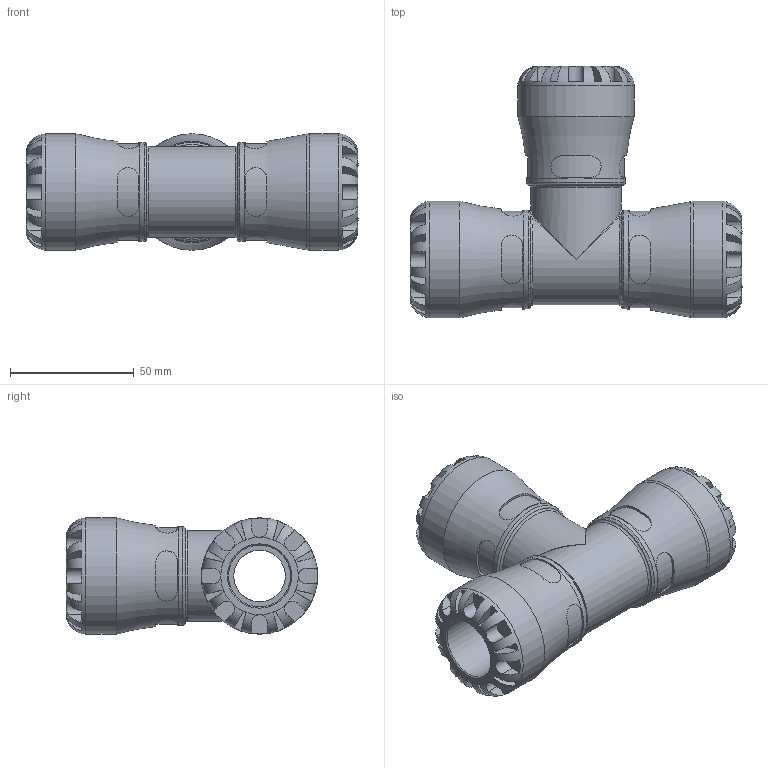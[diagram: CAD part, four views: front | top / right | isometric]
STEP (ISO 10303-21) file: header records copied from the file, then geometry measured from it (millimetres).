
FILE_DESCRIPTION(/* description */ ('PLASSON TEE 25X25X25 SERIES 1'),/* implementation_level */ '2;1');
FILE_NAME(/* name */ 'C:\Dropbox\KIMPROJECTS-Inventor\99-16-3568-Processing\S1\1004\100400025_190400025.ipt.stp',/* time_stamp */ '2018-02-11T12:57:35+02:00',/* author */ ('KIM'),/* organization */ (''),/* preprocessor_version */ 'ST-DEVELOPER v15.6',/* originating_system */ 'Autodesk Inventor 2015',/* authorisation */ '');
FILE_SCHEMA (('AUTOMOTIVE_DESIGN { 1 0 10303 214 3 1 1 }'));
Length unit declared in the file: millimetre
Products named in the file (1): 100400025_190400025
Bounding box: 134 x 101.5 x 47 mm (x, y, z)
Volume: 172958.1 mm3; surface area: 46855.5 mm2
Topology: 1 solids, 1 shells, 296 faces, 758 edges, 471 vertices
Faces by surface type: plane 174, cylinder 97, torus 13, bspline 10, cone 2
Full cylindrical faces by diameter (mm): 20.833 x2, 25 x3, 36.66 x1, 39.95 x3, 47 x3
Entity records: 11867 total; most frequent: CARTESIAN_POINT 4941, ORIENTED_EDGE 1416, DIRECTION 1342, EDGE_CURVE 708, AXIS2_PLACEMENT_3D 551, VERTEX_POINT 454, EDGE_LOOP 340, FACE_OUTER_BOUND 296
